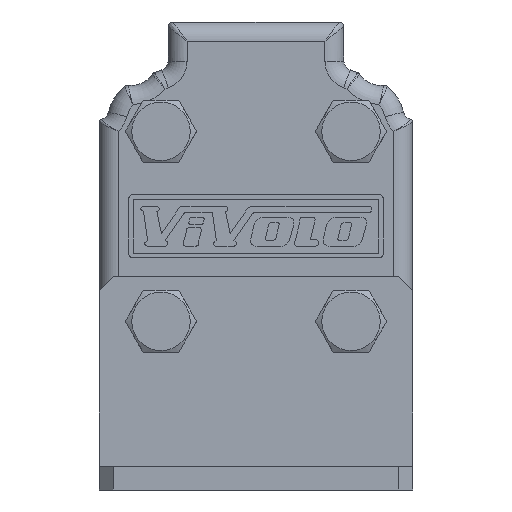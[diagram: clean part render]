
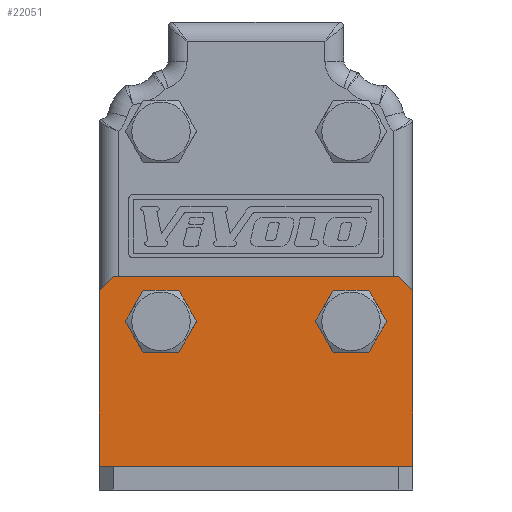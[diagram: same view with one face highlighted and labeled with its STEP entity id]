
A CAD part, front view. The second image highlights one B-rep face of the part: STEP entity #22051.
In plain terms, the highlighted planar face has unit normal (0, -1, 0).
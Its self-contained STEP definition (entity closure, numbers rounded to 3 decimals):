
#716=CIRCLE('',#23046,6.);
#717=CIRCLE('',#23048,6.);
#1842=LINE('',#31170,#3198);
#1849=LINE('',#31193,#3205);
#1850=LINE('',#31195,#3206);
#1851=LINE('',#31197,#3207);
#1852=LINE('',#31199,#3208);
#1853=LINE('',#31201,#3209);
#3198=VECTOR('',#25472,1000.);
#3205=VECTOR('',#25491,1000.);
#3206=VECTOR('',#25492,1000.);
#3207=VECTOR('',#25493,1000.);
#3208=VECTOR('',#25494,1000.);
#3209=VECTOR('',#25495,1000.);
#5146=ORIENTED_EDGE('',*,*,#9423,.T.);
#5147=ORIENTED_EDGE('',*,*,#9422,.T.);
#5148=ORIENTED_EDGE('',*,*,#9485,.F.);
#5149=ORIENTED_EDGE('',*,*,#9474,.T.);
#5150=ORIENTED_EDGE('',*,*,#9486,.F.);
#5151=ORIENTED_EDGE('',*,*,#9487,.F.);
#5152=ORIENTED_EDGE('',*,*,#9488,.F.);
#5153=ORIENTED_EDGE('',*,*,#9489,.F.);
#9422=EDGE_CURVE('',#11676,#11676,#716,.T.);
#9423=EDGE_CURVE('',#11677,#11677,#717,.T.);
#9474=EDGE_CURVE('',#11706,#11707,#1842,.T.);
#9485=EDGE_CURVE('',#11706,#11716,#1849,.T.);
#9486=EDGE_CURVE('',#11717,#11707,#1850,.T.);
#9487=EDGE_CURVE('',#11718,#11717,#1851,.T.);
#9488=EDGE_CURVE('',#11719,#11718,#1852,.T.);
#9489=EDGE_CURVE('',#11716,#11719,#1853,.T.);
#11676=VERTEX_POINT('',#31064);
#11677=VERTEX_POINT('',#31067);
#11706=VERTEX_POINT('',#31171);
#11707=VERTEX_POINT('',#31172);
#11716=VERTEX_POINT('',#31194);
#11717=VERTEX_POINT('',#31196);
#11718=VERTEX_POINT('',#31198);
#11719=VERTEX_POINT('',#31200);
#13239=EDGE_LOOP('',(#5146));
#13240=EDGE_LOOP('',(#5147));
#13241=EDGE_LOOP('',(#5148,#5149,#5150,#5151,#5152,#5153));
#14249=FACE_BOUND('',#13239,.T.);
#14250=FACE_BOUND('',#13240,.T.);
#14251=FACE_BOUND('',#13241,.T.);
#15180=PLANE('',#23082);
#22051=ADVANCED_FACE('',(#14249,#14250,#14251),#15180,.F.);
#23046=AXIS2_PLACEMENT_3D('',#31063,#25364,#25365);
#23048=AXIS2_PLACEMENT_3D('',#31066,#25368,#25369);
#23082=AXIS2_PLACEMENT_3D('',#31192,#25489,#25490);
#25364=DIRECTION('',(0.,1.,0.));
#25365=DIRECTION('',(1.,0.,0.));
#25368=DIRECTION('',(0.,1.,0.));
#25369=DIRECTION('',(1.,0.,0.));
#25472=DIRECTION('',(1.,0.,0.));
#25489=DIRECTION('',(0.,1.,0.));
#25490=DIRECTION('',(0.,0.,1.));
#25491=DIRECTION('',(0.,0.,1.));
#25492=DIRECTION('',(0.,0.,-1.));
#25493=DIRECTION('',(0.707,0.,-0.707));
#25494=DIRECTION('',(1.,0.,0.));
#25495=DIRECTION('',(0.707,0.,0.707));
#31063=CARTESIAN_POINT('',(20.,-5.,-20.));
#31064=CARTESIAN_POINT('',(26.,-5.,-20.));
#31066=CARTESIAN_POINT('',(-20.,-5.,-20.));
#31067=CARTESIAN_POINT('',(-14.,-5.,-20.));
#31170=CARTESIAN_POINT('',(33.,-5.,-50.5));
#31171=CARTESIAN_POINT('',(-33.,-5.,-50.5));
#31172=CARTESIAN_POINT('',(33.,-5.,-50.5));
#31192=CARTESIAN_POINT('',(33.,-5.,-55.5));
#31193=CARTESIAN_POINT('',(-33.,-5.,-55.5));
#31194=CARTESIAN_POINT('',(-33.,-5.,-13.5));
#31195=CARTESIAN_POINT('',(33.,-5.,-13.5));
#31196=CARTESIAN_POINT('',(33.,-5.,-13.5));
#31197=CARTESIAN_POINT('',(30.,-5.,-10.5));
#31198=CARTESIAN_POINT('',(30.,-5.,-10.5));
#31199=CARTESIAN_POINT('',(30.,-5.,-10.5));
#31200=CARTESIAN_POINT('',(-30.,-5.,-10.5));
#31201=CARTESIAN_POINT('',(-33.,-5.,-13.5));
